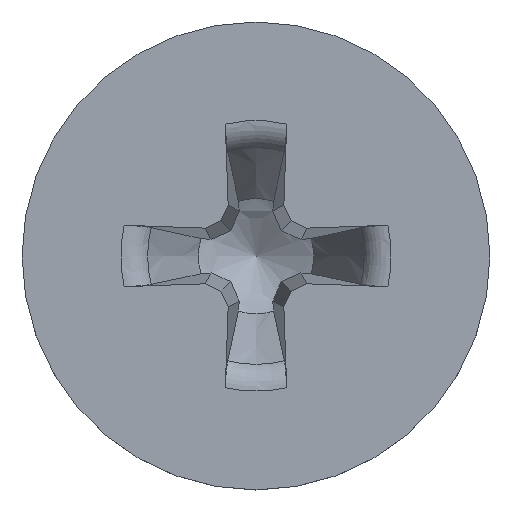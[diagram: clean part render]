
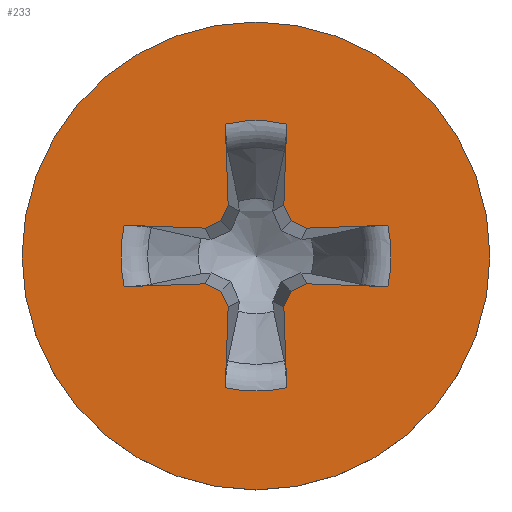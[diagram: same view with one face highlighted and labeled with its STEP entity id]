
A CAD part, top view. The second image highlights one B-rep face of the part: STEP entity #233.
In plain terms, the highlighted planar face has unit normal (0, 0, 1).
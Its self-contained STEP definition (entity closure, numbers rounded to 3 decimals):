
#68=PLANE('',#1157);
#86=LINE('',#2520,#144);
#87=LINE('',#2525,#145);
#88=LINE('',#2527,#146);
#89=LINE('',#2529,#147);
#90=LINE('',#2531,#148);
#91=LINE('',#2535,#149);
#92=LINE('',#2537,#150);
#93=LINE('',#2539,#151);
#94=LINE('',#2541,#152);
#95=LINE('',#2545,#153);
#96=LINE('',#2547,#154);
#97=LINE('',#2549,#155);
#98=LINE('',#2551,#156);
#99=LINE('',#2555,#157);
#100=LINE('',#2557,#158);
#101=LINE('',#2559,#159);
#144=VECTOR('',#1219,1.);
#145=VECTOR('',#1222,1.);
#146=VECTOR('',#1223,1.);
#147=VECTOR('',#1224,1.);
#148=VECTOR('',#1225,1.);
#149=VECTOR('',#1228,1.);
#150=VECTOR('',#1229,1.);
#151=VECTOR('',#1230,1.);
#152=VECTOR('',#1231,1.);
#153=VECTOR('',#1234,1.);
#154=VECTOR('',#1235,1.);
#155=VECTOR('',#1236,1.);
#156=VECTOR('',#1237,1.);
#157=VECTOR('',#1240,1.);
#158=VECTOR('',#1241,1.);
#159=VECTOR('',#1242,1.);
#210=FACE_BOUND('',#366,.T.);
#211=FACE_BOUND('',#367,.T.);
#233=ADVANCED_FACE('',(#210,#211),#68,.F.);
#366=EDGE_LOOP('',(#489));
#367=EDGE_LOOP('',(#490,#491,#492,#493,#494,#495,#496,#497,#498,#499,#500,
#501,#502,#503,#504,#505,#506,#507,#508,#509));
#440=CIRCLE('',#1152,4.65);
#441=CIRCLE('',#1153,2.69);
#442=CIRCLE('',#1154,2.69);
#443=CIRCLE('',#1155,2.69);
#444=CIRCLE('',#1156,2.69);
#489=ORIENTED_EDGE('',*,*,#923,.T.);
#490=ORIENTED_EDGE('',*,*,#924,.F.);
#491=ORIENTED_EDGE('',*,*,#925,.T.);
#492=ORIENTED_EDGE('',*,*,#926,.F.);
#493=ORIENTED_EDGE('',*,*,#927,.F.);
#494=ORIENTED_EDGE('',*,*,#928,.F.);
#495=ORIENTED_EDGE('',*,*,#929,.F.);
#496=ORIENTED_EDGE('',*,*,#930,.T.);
#497=ORIENTED_EDGE('',*,*,#931,.F.);
#498=ORIENTED_EDGE('',*,*,#932,.F.);
#499=ORIENTED_EDGE('',*,*,#933,.F.);
#500=ORIENTED_EDGE('',*,*,#934,.F.);
#501=ORIENTED_EDGE('',*,*,#935,.T.);
#502=ORIENTED_EDGE('',*,*,#936,.F.);
#503=ORIENTED_EDGE('',*,*,#937,.F.);
#504=ORIENTED_EDGE('',*,*,#938,.F.);
#505=ORIENTED_EDGE('',*,*,#939,.F.);
#506=ORIENTED_EDGE('',*,*,#940,.T.);
#507=ORIENTED_EDGE('',*,*,#941,.F.);
#508=ORIENTED_EDGE('',*,*,#942,.F.);
#509=ORIENTED_EDGE('',*,*,#943,.F.);
#815=VERTEX_POINT('',#2519);
#816=VERTEX_POINT('',#2521);
#817=VERTEX_POINT('',#2522);
#818=VERTEX_POINT('',#2524);
#819=VERTEX_POINT('',#2526);
#820=VERTEX_POINT('',#2528);
#821=VERTEX_POINT('',#2530);
#822=VERTEX_POINT('',#2532);
#823=VERTEX_POINT('',#2534);
#824=VERTEX_POINT('',#2536);
#825=VERTEX_POINT('',#2538);
#826=VERTEX_POINT('',#2540);
#827=VERTEX_POINT('',#2542);
#828=VERTEX_POINT('',#2544);
#829=VERTEX_POINT('',#2546);
#830=VERTEX_POINT('',#2548);
#831=VERTEX_POINT('',#2550);
#832=VERTEX_POINT('',#2552);
#833=VERTEX_POINT('',#2554);
#834=VERTEX_POINT('',#2556);
#835=VERTEX_POINT('',#2558);
#923=EDGE_CURVE('',#815,#815,#440,.T.);
#924=EDGE_CURVE('',#816,#817,#86,.T.);
#925=EDGE_CURVE('',#816,#818,#441,.T.);
#926=EDGE_CURVE('',#819,#818,#87,.T.);
#927=EDGE_CURVE('',#820,#819,#88,.T.);
#928=EDGE_CURVE('',#821,#820,#89,.T.);
#929=EDGE_CURVE('',#822,#821,#90,.T.);
#930=EDGE_CURVE('',#822,#823,#442,.T.);
#931=EDGE_CURVE('',#824,#823,#91,.T.);
#932=EDGE_CURVE('',#825,#824,#92,.T.);
#933=EDGE_CURVE('',#826,#825,#93,.T.);
#934=EDGE_CURVE('',#827,#826,#94,.T.);
#935=EDGE_CURVE('',#827,#828,#443,.T.);
#936=EDGE_CURVE('',#829,#828,#95,.T.);
#937=EDGE_CURVE('',#830,#829,#96,.T.);
#938=EDGE_CURVE('',#831,#830,#97,.T.);
#939=EDGE_CURVE('',#832,#831,#98,.T.);
#940=EDGE_CURVE('',#832,#833,#444,.T.);
#941=EDGE_CURVE('',#834,#833,#99,.T.);
#942=EDGE_CURVE('',#835,#834,#100,.T.);
#943=EDGE_CURVE('',#817,#835,#101,.T.);
#1152=AXIS2_PLACEMENT_3D('',#2518,#1217,#1218);
#1153=AXIS2_PLACEMENT_3D('',#2523,#1220,#1221);
#1154=AXIS2_PLACEMENT_3D('',#2533,#1226,#1227);
#1155=AXIS2_PLACEMENT_3D('',#2543,#1232,#1233);
#1156=AXIS2_PLACEMENT_3D('',#2553,#1238,#1239);
#1157=AXIS2_PLACEMENT_3D('',#2560,#1243,#1244);
#1217=DIRECTION('',(0.,0.,1.));
#1218=DIRECTION('',(1.,0.,0.));
#1219=DIRECTION('',(-0.999,-0.035,0.));
#1220=DIRECTION('',(0.,0.,-1.));
#1221=DIRECTION('',(-1.,0.,0.));
#1222=DIRECTION('',(0.999,-0.035,0.));
#1223=DIRECTION('',(0.906,0.423,0.));
#1224=DIRECTION('',(0.423,0.906,0.));
#1225=DIRECTION('',(-0.035,0.999,0.));
#1226=DIRECTION('',(0.,0.,-1.));
#1227=DIRECTION('',(-1.,0.,0.));
#1228=DIRECTION('',(-0.035,-0.999,0.));
#1229=DIRECTION('',(0.423,-0.906,0.));
#1230=DIRECTION('',(0.906,-0.423,0.));
#1231=DIRECTION('',(0.999,0.035,0.));
#1232=DIRECTION('',(0.,0.,-1.));
#1233=DIRECTION('',(-1.,0.,0.));
#1234=DIRECTION('',(-0.999,0.035,0.));
#1235=DIRECTION('',(-0.906,-0.423,0.));
#1236=DIRECTION('',(-0.423,-0.906,0.));
#1237=DIRECTION('',(0.035,-0.999,0.));
#1238=DIRECTION('',(0.,0.,-1.));
#1239=DIRECTION('',(-1.,0.,0.));
#1240=DIRECTION('',(0.035,0.999,0.));
#1241=DIRECTION('',(-0.423,0.906,0.));
#1242=DIRECTION('',(-0.906,0.423,0.));
#1243=DIRECTION('',(0.,0.,-1.));
#1244=DIRECTION('',(-1.,0.,0.));
#2518=CARTESIAN_POINT('',(0.,0.,3.705));
#2519=CARTESIAN_POINT('',(4.65,0.,3.705));
#2520=CARTESIAN_POINT('',(0.144,0.523,3.705));
#2521=CARTESIAN_POINT('',(2.62,0.61,3.705));
#2522=CARTESIAN_POINT('',(1.009,0.553,3.705));
#2523=CARTESIAN_POINT('',(0.,0.,3.705));
#2524=CARTESIAN_POINT('',(2.62,-0.61,3.705));
#2525=CARTESIAN_POINT('',(-0.18,-0.512,3.705));
#2526=CARTESIAN_POINT('',(1.009,-0.553,3.705));
#2527=CARTESIAN_POINT('',(2.173,-0.01,3.705));
#2528=CARTESIAN_POINT('',(0.698,-0.698,3.705));
#2529=CARTESIAN_POINT('',(2.622,3.427,3.705));
#2530=CARTESIAN_POINT('',(0.553,-1.009,3.705));
#2531=CARTESIAN_POINT('',(0.355,4.662,3.705));
#2532=CARTESIAN_POINT('',(0.61,-2.62,3.705));
#2533=CARTESIAN_POINT('',(0.,0.,3.705));
#2534=CARTESIAN_POINT('',(-0.61,-2.62,3.705));
#2535=CARTESIAN_POINT('',(-0.355,4.662,3.705));
#2536=CARTESIAN_POINT('',(-0.553,-1.009,3.705));
#2537=CARTESIAN_POINT('',(-2.622,3.427,3.705));
#2538=CARTESIAN_POINT('',(-0.698,-0.698,3.705));
#2539=CARTESIAN_POINT('',(-2.173,-0.01,3.705));
#2540=CARTESIAN_POINT('',(-1.009,-0.553,3.705));
#2541=CARTESIAN_POINT('',(0.18,-0.512,3.705));
#2542=CARTESIAN_POINT('',(-2.62,-0.61,3.705));
#2543=CARTESIAN_POINT('',(0.,0.,3.705));
#2544=CARTESIAN_POINT('',(-2.62,0.61,3.705));
#2545=CARTESIAN_POINT('',(-0.144,0.523,3.705));
#2546=CARTESIAN_POINT('',(-1.009,0.553,3.705));
#2547=CARTESIAN_POINT('',(1.389,1.671,3.705));
#2548=CARTESIAN_POINT('',(-0.698,0.698,3.705));
#2549=CARTESIAN_POINT('',(0.94,4.212,3.705));
#2550=CARTESIAN_POINT('',(-0.553,1.009,3.705));
#2551=CARTESIAN_POINT('',(-0.68,4.626,3.705));
#2552=CARTESIAN_POINT('',(-0.61,2.62,3.705));
#2553=CARTESIAN_POINT('',(0.,0.,3.705));
#2554=CARTESIAN_POINT('',(0.61,2.62,3.705));
#2555=CARTESIAN_POINT('',(0.68,4.626,3.705));
#2556=CARTESIAN_POINT('',(0.553,1.009,3.705));
#2557=CARTESIAN_POINT('',(-0.94,4.212,3.705));
#2558=CARTESIAN_POINT('',(0.698,0.698,3.705));
#2559=CARTESIAN_POINT('',(-1.389,1.671,3.705));
#2560=CARTESIAN_POINT('',(0.,4.65,3.705));
